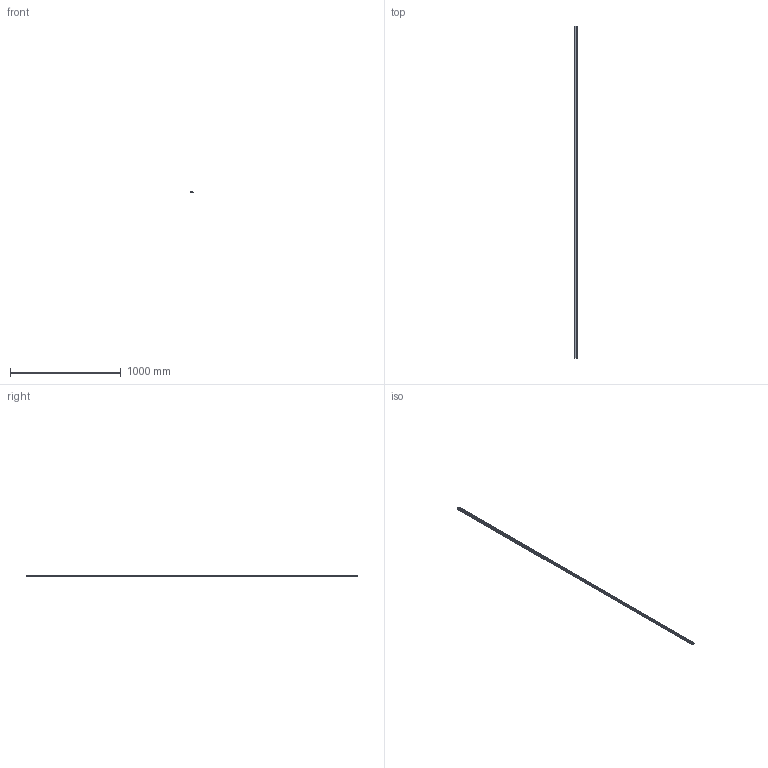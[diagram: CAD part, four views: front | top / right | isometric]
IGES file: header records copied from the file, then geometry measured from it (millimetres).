
Start section: Data from Parasolid IGES Translator 20.0.26, Copyright(c) 2006 Siemens P LM Software. All Rights Reserved.
Global section: file name: 9298814.igs; native system: By Siemens PLM Incorporated; preprocessor: XPlus GENERIC/IGES 20.0.26; author: Noname; organization: Noname; date: 20210826.183145; units: millimetre
Bounding box: 23 x 3000 x 18 mm (x, y, z)
Surface area: 461032.6 mm2 (no closed solid volume)
Topology: 0 solids, 0 shells, 44 faces, 252 edges, 252 vertices
Faces by surface type: extrusion 44
